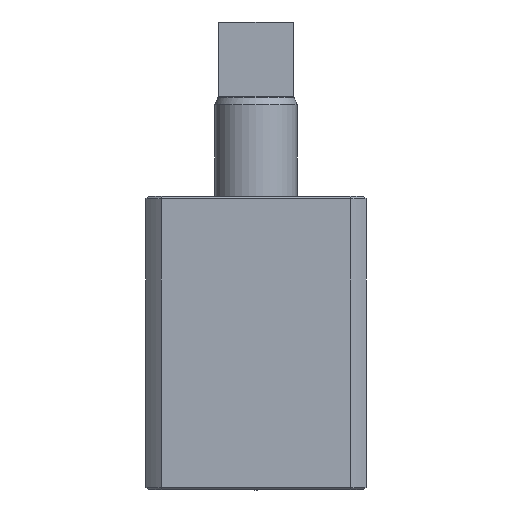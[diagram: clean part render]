
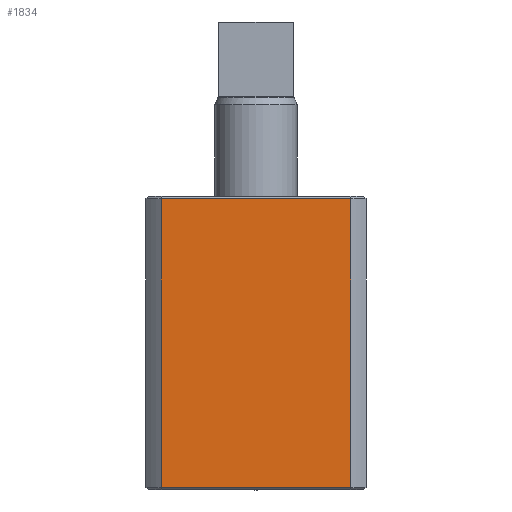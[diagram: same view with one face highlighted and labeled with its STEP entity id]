
A CAD part, left-side view. The second image highlights one B-rep face of the part: STEP entity #1834.
In plain terms, the highlighted planar face has unit normal (-1, 0, 0).
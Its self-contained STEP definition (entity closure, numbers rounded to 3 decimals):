
#161=LINE('',#2933,#261);
#162=LINE('',#2936,#262);
#163=LINE('',#2938,#263);
#164=LINE('',#2940,#264);
#261=VECTOR('',#2368,1000.);
#262=VECTOR('',#2369,1000.);
#263=VECTOR('',#2370,1000.);
#264=VECTOR('',#2371,1000.);
#416=ORIENTED_EDGE('',*,*,#865,.F.);
#417=ORIENTED_EDGE('',*,*,#866,.T.);
#418=ORIENTED_EDGE('',*,*,#867,.T.);
#419=ORIENTED_EDGE('',*,*,#868,.T.);
#865=EDGE_CURVE('',#1100,#1101,#161,.T.);
#866=EDGE_CURVE('',#1100,#1102,#162,.T.);
#867=EDGE_CURVE('',#1102,#1103,#163,.T.);
#868=EDGE_CURVE('',#1103,#1101,#164,.T.);
#1100=VERTEX_POINT('',#2934);
#1101=VERTEX_POINT('',#2935);
#1102=VERTEX_POINT('',#2937);
#1103=VERTEX_POINT('',#2939);
#1374=EDGE_LOOP('',(#416,#417,#418,#419));
#1584=FACE_BOUND('',#1374,.T.);
#1753=PLANE('',#2052);
#1834=ADVANCED_FACE('',(#1584),#1753,.F.);
#2052=AXIS2_PLACEMENT_3D('',#2932,#2366,#2367);
#2366=DIRECTION('',(1.,0.,0.));
#2367=DIRECTION('',(0.,1.,0.));
#2368=DIRECTION('',(0.,0.,1.));
#2369=DIRECTION('',(0.,-1.,0.));
#2370=DIRECTION('',(0.,0.,1.));
#2371=DIRECTION('',(0.,1.,0.));
#2932=CARTESIAN_POINT('',(-37.5,71.811,-79.7));
#2933=CARTESIAN_POINT('',(-37.5,71.811,-79.7));
#2934=CARTESIAN_POINT('',(-37.5,71.811,-78.9));
#2935=CARTESIAN_POINT('',(-37.5,71.811,19.5));
#2936=CARTESIAN_POINT('',(-37.5,7.189,-78.9));
#2937=CARTESIAN_POINT('',(-37.5,7.189,-78.9));
#2938=CARTESIAN_POINT('',(-37.5,7.189,-79.7));
#2939=CARTESIAN_POINT('',(-37.5,7.189,19.5));
#2940=CARTESIAN_POINT('',(-37.5,71.811,19.5));
